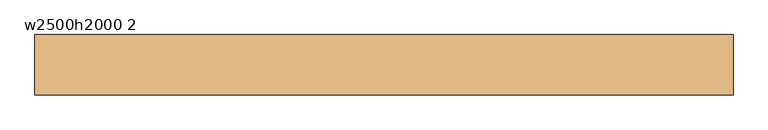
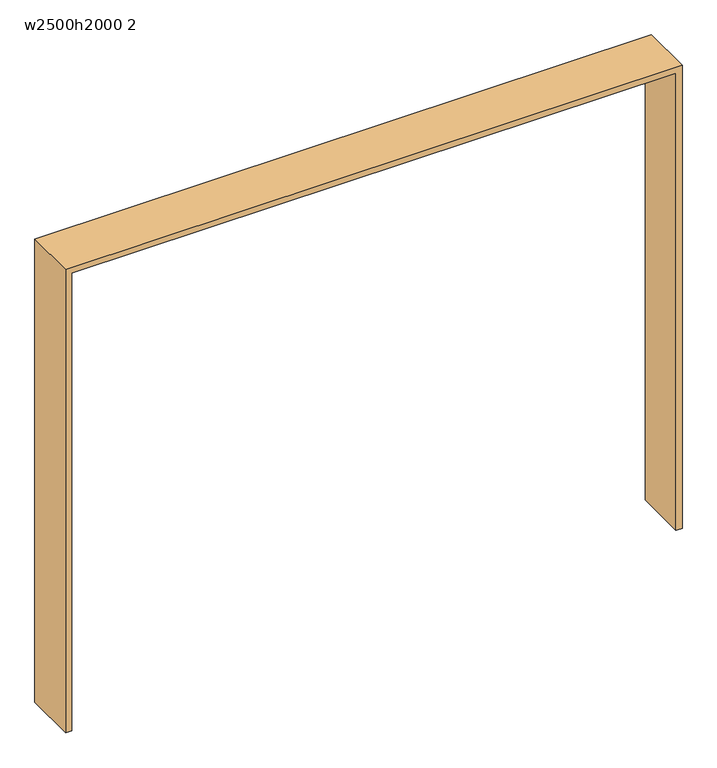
"""IFC4 building model written with IfcOpenShell, lengths in millimetres: door geometry, 開口枠あり : w2500h2000 2."""

from ifc_helpers import new_model, si_unit, frame, origin, place, context, project, spatial, polyline, outline, extrude, source, transform, mapped, element, save


def w2500h2000_2_3d9daec4(model_context):
    return source(origin(), model_context, "Body", "SweptSolid", [
        extrude(outline(polyline([(0.0, -1275.0), (0.0, -1250.0), (2000.0, -1250.0), (2000.0, 1250.0), (0.0, 1250.0), (0.0, 1275.0), (2025.0, 1275.0), (2025.0, -1275.0), (0.0, -1275.0)])), frame((0.0, -110.0, 0.0), z_axis=(0.0, 1.0, 0.0), x_axis=(0.0, 0.0, 1.0)), (0.0, 0.0, 1.0), 220.0),
    ])


if __name__ == "__main__":
    model = new_model("IFC4")
    model_context = context("Model", 3, world=origin())
    ifc_project = project(units=[si_unit("LENGTHUNIT", "METRE", prefix="MILLI")], contexts=[model_context])
    site = spatial("IfcSite", under=ifc_project)
    building = spatial("IfcBuilding", under=site)
    placement = place(None, origin())
    w2500h2000_2_shape = w2500h2000_2_3d9daec4(model_context)
    element("IfcDoor", 1, ObjectType="開口枠あり : w2500h2000 2", at=placement, inside=building, context=model_context, shape_type="MappedRepresentation", body=[
        mapped(w2500h2000_2_shape, transform((0.0, 0.0, 0.0), x_axis=(1.0, 0.0, 0.0), y_axis=(0.0, 1.0, 0.0), z_axis=(0.0, 0.0, 1.0))),
    ])
    save(model, "model.ifc")
